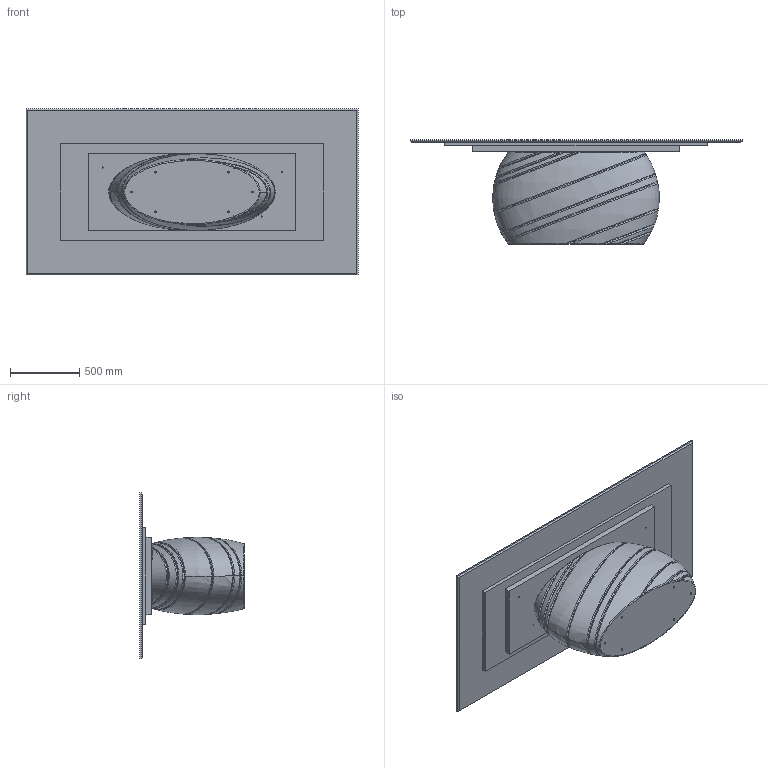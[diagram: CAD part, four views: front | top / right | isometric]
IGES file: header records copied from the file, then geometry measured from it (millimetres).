
Start section: SolidWorks IGES file using analytic representation for surfaces
Global section: file name: Y:\eforma\TECNICO\SOLIDWORKS\E-FORMA\1-TAVOLI\GIOVE\08 modelli 3D web\marmo 240x120.IGS; native system: SolidWorks 2022; preprocessor: SolidWorks 2022; author: eforma.tech; date: 250526.160448; units: millimetre
Bounding box: 2400 x 757 x 1200 mm (x, y, z)
Volume: 440581151.6 mm3; surface area: 13263790.5 mm2
Topology: 4 solids, 4 shells, 166 faces, 401 edges, 258 vertices
Faces by surface type: revolution 68, bspline 53, plane 45
